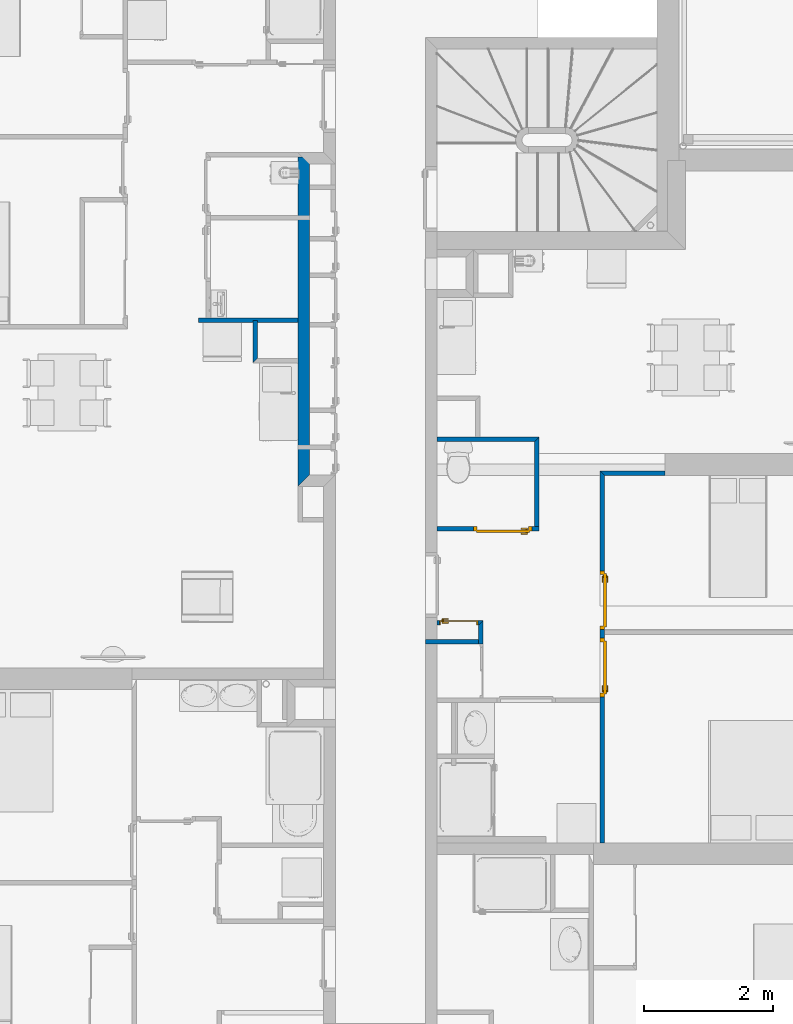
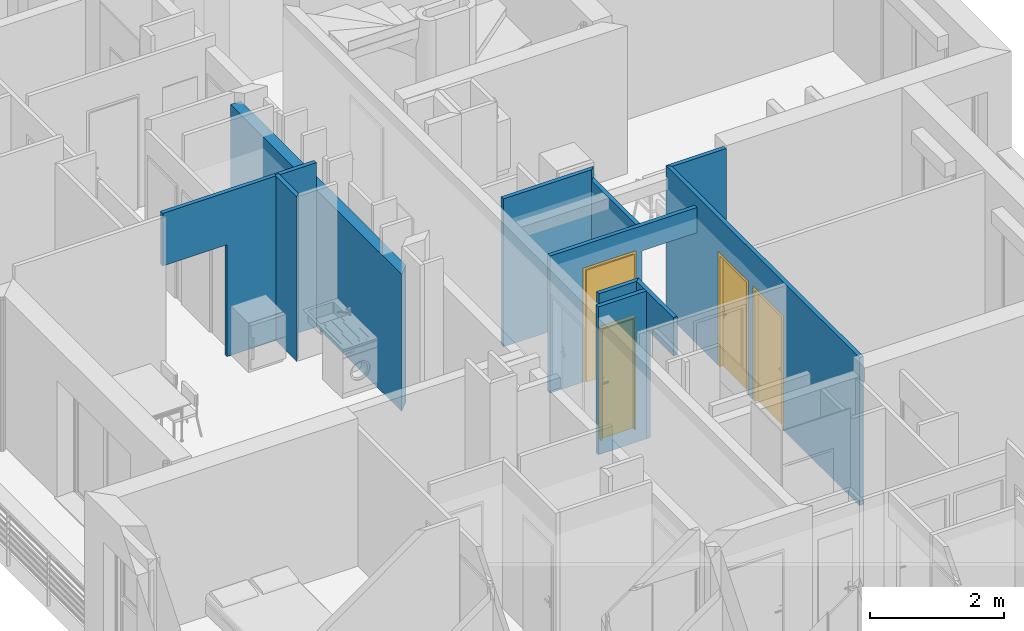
# One storey, part 37 of 171: 11 walls, 4 doors, 7 openings.
"""IFC2X3 building model written with IfcOpenShell, lengths in millimetres."""

from ifc_helpers import new_model, entity, si_unit, converted_unit, derived_unit, money_unit, direction, frame, origin_with_axes, origin_2d_with_axis, place, context, subcontext, project, spatial, polyline, rectangle, outline, extrude, faceted_brep, source, transform, mapped, material, layer, layer_set, layer_usage, type_object, element, fill, save


model = new_model("IFC2X3")

# Units and contexts
model_context = context("Model", 3, precision=0.01, world=origin_with_axes(), true_north=direction((0.0, 1.0)))
body_context = subcontext(model_context, "Body", "Model", "MODEL_VIEW")
ifc_project = project(units=[si_unit("LENGTHUNIT", "METRE", prefix="MILLI"), si_unit("AREAUNIT", "SQUARE_METRE"), si_unit("VOLUMEUNIT", "CUBIC_METRE"), converted_unit("PLANEANGLEUNIT", "DEGREE", entity("IfcPlaneAngleMeasure", 0.0174532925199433), si_unit("PLANEANGLEUNIT", "RADIAN"), dimensions=[0, 0, 0, 0, 0, 0, 0]), money_unit("USD"), converted_unit("TIMEUNIT", "Year", entity("IfcTimeMeasure", 31557600.0), si_unit("TIMEUNIT", "SECOND"), dimensions=[0, 0, 1, 0, 0, 0, 0]), si_unit("MASSUNIT", "GRAM", prefix="KILO"), si_unit("THERMODYNAMICTEMPERATUREUNIT", "DEGREE_CELSIUS"), si_unit("LUMINOUSINTENSITYUNIT", "LUMEN"), si_unit("ENERGYUNIT", "JOULE", prefix="MEGA"), derived_unit("THERMALCONDUCTANCEUNIT", [(si_unit("POWERUNIT", "WATT"), 1), (si_unit("LENGTHUNIT", "METRE"), -1), (si_unit("THERMODYNAMICTEMPERATUREUNIT", "KELVIN"), -1)]), derived_unit("SPECIFICHEATCAPACITYUNIT", [(si_unit("ENERGYUNIT", "JOULE"), 1), (si_unit("MASSUNIT", "GRAM", prefix="KILO"), -1), (si_unit("THERMODYNAMICTEMPERATUREUNIT", "KELVIN"), -1)]), derived_unit("MASSDENSITYUNIT", [(si_unit("MASSUNIT", "GRAM", prefix="KILO"), 1), (si_unit("VOLUMEUNIT", "CUBIC_METRE"), -1)])], contexts=[model_context])

# Site, building, storey
site_placement = place(None, origin_with_axes())
site = spatial("IfcSite", under=ifc_project, at=site_placement, Name="Site", CompositionType="ELEMENT")
building_placement = place(site_placement, origin_with_axes())
building = spatial("IfcBuilding", under=site, at=building_placement, Name="Bâtiment", CompositionType="ELEMENT")
storey_placement = place(building_placement, frame((0.0, 0.0, 3000.0), z_axis=(0.0, 0.0, 1.0), x_axis=(1.0, 0.0, 0.0)))
storey = spatial("IfcBuildingStorey", under=building, at=storey_placement, Name="rdc", CompositionType="ELEMENT", Elevation=3000.0)

# Walls
ifc_material_1 = material(Name="Parpaing 314940890")
ifc_layer_1 = layer(ifc_material_1, 180.0, ventilated="UNKNOWN")
ifc_layer_set_1 = layer_set([ifc_layer_1], Name="Beton  18 0018356637")
ifc_layer_usage_1 = layer_usage(ifc_layer_set_1, "AXIS2", "POSITIVE", 0.0)
wall_type_1 = type_object("IfcWallType", Name="Beton  18 0018356637 180", PredefinedType="NOTDEFINED")
wall_1_placement = place(storey_placement, frame((2223732.400120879, -636007.2981221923, 0.0), z_axis=(0.0, 0.0, 1.0), x_axis=(0.0, -1.0, 0.0)))
element("IfcWallStandardCase", 1, at=wall_1_placement, inside=storey, type_object=wall_type_1, material=ifc_layer_usage_1, Name="Mur-142", context=body_context, shape_type="SweptSolid", body=[
    extrude(outline(polyline([(69.99998401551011, 0.0), (5189.440402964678, 0.0), (5009.440853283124, 179.99999999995), (69.99998897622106, 179.99999999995), (69.99998401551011, 0.0)])), origin_with_axes(), (0.0, 0.0, 1.0), 2500.0),
])
ifc_material_2 = material(Name="Hachure solide 268963992")
ifc_layer_2 = layer(ifc_material_2, 70.0, ventilated="UNKNOWN")
ifc_layer_set_2 = layer_set([ifc_layer_2], Name="Cloison 70 0826278243")
ifc_layer_usage_2 = layer_usage(ifc_layer_set_2, "AXIS2", "NEGATIVE", 70.0)
wall_type_2 = type_object("IfcWallType", Name="Cloison 70 0826278243 70", PredefinedType="NOTDEFINED")
wall_2_placement = place(storey_placement, frame((2228500.650386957, -641025.3255383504, 0.0), z_axis=(0.0, 0.0, 1.0), x_axis=(1.0, 0.0, 0.0)))
element("IfcWallStandardCase", 2, at=wall_2_placement, inside=storey, type_object=wall_type_2, material=ifc_layer_usage_2, Name="Mur-149", context=body_context, shape_type="SweptSolid", body=[
    extrude(outline(polyline([(0.0, 0.0), (934.1625053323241, 0.0), (934.1625053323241, 69.99999999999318), (-70.00000000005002, 69.99999999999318), (0.0, 0.0)])), origin_with_axes(), (0.0, 0.0, 1.0), 2700.0),
])

# Wall, opening, door
ifc_layer_usage_3 = layer_usage(ifc_layer_set_2, "AXIS2", "POSITIVE", -70.0)
wall_3_placement = place(storey_placement, frame((2225712.313074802, -643283.0930621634, 0.0), z_axis=(0.0, 0.0, 1.0), x_axis=(0.9999999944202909, -0.0001056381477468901, 0.0)))
wall_3 = element("IfcWallStandardCase", 3, at=wall_3_placement, inside=storey, type_object=wall_type_2, material=ifc_layer_usage_3, Name="Mur-149", context=body_context, shape_type="SweptSolid", body=[
    extrude(outline(polyline([(180.0126775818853, -69.99999999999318), (830.1173335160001, -69.99999999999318), (900.1173335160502, 0.0), (180.005282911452, 0.0), (180.0126775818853, -69.99999999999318)])), origin_with_axes(), (0.0, 0.0, 1.0), 2700.0),
])
opening_1_placement = place(wall_3_placement, frame((516.4323291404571, 0.0, 0.0), z_axis=(0.0, 0.0, 1.0), x_axis=(1.0, 0.0, 0.0)))
opening_1 = element("IfcOpeningElement", 4, at=opening_1_placement, cuts=wall_3, Name="Por-274", context=body_context, shape_type="SweptSolid", body=[
    extrude(rectangle(XDim=599.9999999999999, YDim=2050.0, at=origin_2d_with_axis()), frame((-1.13686837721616e-10, -69.99999999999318, 1025.0), z_axis=(0.0, 1.0, 0.0), x_axis=(1.0, 0.0, 0.0)), (0.0, 0.0, 1.0), 140.0),
])
door_style = type_object("IfcDoorStyle", Name="Porte_1v", ConstructionType="NOTDEFINED", OperationType="NOTDEFINED", ParameterTakesPrecedence=False, Sizeable=False)
shared_shape_1 = source(origin_with_axes(), body_context, "Body", "Brep", [
    faceted_brep([(300.0, 0.0, 0.0), (290.0, 0.0, 0.0), (290.0, 0.0, 2040.0), (-290.0, 0.0, 2040.0), (-290.0, 0.0, 0.0), (-300.0, 0.0, 0.0), (-300.0, 0.0, 2050.0), (300.0, 0.0, 2050.0), (300.0, -70.0, 0.0), (279.9999999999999, -70.0, 0.0), (279.9999999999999, -15.0, 0.0), (290.0, -15.0, 0.0), (290.0, -15.0, 2040.0), (-290.0, -15.0, 2040.0), (-290.0, -15.0, 0.0), (-279.9999999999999, -15.0, 0.0), (-279.9999999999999, -70.0, 0.0), (-300.0, -70.0, 0.0), (-300.0, -70.0, 2050.0), (300.0, -70.0, 2050.0), (-279.9999999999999, -70.0, 2030.0), (279.9999999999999, -70.0, 2030.0), (279.9999999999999, -15.0, 2030.0), (-279.9999999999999, -15.0, 2030.0)], [[[0, 1, 2, 3, 4, 5, 6, 7]], [[0, 8, 9, 10, 11, 1]], [[1, 11, 12, 2]], [[2, 12, 13, 3]], [[3, 13, 14, 4]], [[5, 4, 14, 15, 16, 17]], [[18, 6, 5, 17]], [[19, 7, 6, 18]], [[8, 0, 7, 19]], [[9, 8, 19, 18, 17, 16, 20, 21]], [[10, 9, 21, 22]], [[11, 10, 22, 23, 15, 14, 13, 12]], [[23, 20, 16, 15]], [[22, 21, 20, 23]]]),
    faceted_brep([(-224.9999999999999, -15.0, 900.0), (-264.9999999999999, -15.0, 900.0), (-264.9999999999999, -15.0, 1100.0), (-224.9999999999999, -15.0, 1100.0), (-224.9999999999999, -25.0, 900.0), (-264.9999999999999, -25.0, 900.0), (-264.9999999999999, -25.0, 1100.0), (-224.9999999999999, -25.0, 1100.0)], [[[0, 1, 2, 3]], [[1, 0, 4, 5]], [[2, 1, 5, 6]], [[3, 2, 6, 7]], [[0, 3, 7, 4]], [[5, 4, 7, 6]]]),
    faceted_brep([(-154.9999999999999, -25.0, 1000.0), (-254.9999999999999, -25.0, 1000.0), (-254.9999999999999, -25.0, 1020.0), (-154.9999999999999, -25.0, 1020.0), (-154.9999999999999, -45.0, 1000.0), (-254.9999999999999, -45.0, 1000.0), (-254.9999999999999, -45.0, 1020.0), (-154.9999999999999, -45.0, 1020.0)], [[[0, 1, 2, 3]], [[1, 0, 4, 5]], [[2, 1, 5, 6]], [[3, 2, 6, 7]], [[0, 3, 7, 4]], [[5, 4, 7, 6]]]),
    faceted_brep([(-224.9999999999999, 15.0, 900.0), (-264.9999999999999, 15.0, 900.0), (-264.9999999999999, 15.0, 1100.0), (-224.9999999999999, 15.0, 1100.0), (-224.9999999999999, 5.000000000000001, 900.0), (-264.9999999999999, 5.000000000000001, 900.0), (-264.9999999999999, 5.000000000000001, 1100.0), (-224.9999999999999, 5.000000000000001, 1100.0)], [[[0, 1, 2, 3]], [[1, 0, 4, 5]], [[2, 1, 5, 6]], [[3, 2, 6, 7]], [[0, 3, 7, 4]], [[5, 4, 7, 6]]]),
    faceted_brep([(-154.9999999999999, 35.0, 1000.0), (-254.9999999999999, 35.0, 1000.0), (-254.9999999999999, 35.0, 1020.0), (-154.9999999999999, 35.0, 1020.0), (-154.9999999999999, 15.0, 1000.0), (-254.9999999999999, 15.0, 1000.0), (-254.9999999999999, 15.0, 1020.0), (-154.9999999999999, 15.0, 1020.0)], [[[0, 1, 2, 3]], [[1, 0, 4, 5]], [[2, 1, 5, 6]], [[3, 2, 6, 7]], [[0, 3, 7, 4]], [[5, 4, 7, 6]]]),
    faceted_brep([(-290.0, 5.000000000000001, 0.0), (290.0, 5.000000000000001, 0.0), (290.0, -15.0, 0.0), (-290.0, -15.0, 0.0), (-290.0, 5.000000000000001, 2040.0), (290.0, 5.000000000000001, 2040.0), (290.0, -15.0, 2040.0), (-290.0, -15.0, 2040.0)], [[[0, 1, 2, 3]], [[0, 4, 5, 1]], [[1, 5, 6, 2]], [[3, 2, 6, 7]], [[4, 0, 3, 7]], [[5, 4, 7, 6]]]),
])
door_1_placement = place(opening_1_placement, frame((-289.9999999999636, 0.0, 0.0), z_axis=(0.0, 0.0, 1.0), x_axis=(1.0, 0.0, 0.0)))
door_1 = element("IfcDoor", 5, at=door_1_placement, inside=storey, type_object=door_style, Name="Por-274", OverallHeight=2040.0, OverallWidth=580.0, context=body_context, shape_type="MappedRepresentation", body=[
    mapped(shared_shape_1, transform((290.0000000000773, 0.0, 0.0))),
])
fill(opening_1, door_1)

# Wall, openings, doors
ifc_layer_usage_4 = layer_usage(ifc_layer_set_2, "AXIS2", "NEGATIVE", 70.0)
wall_4_placement = place(storey_placement, frame((2228500.650386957, -646738.4413044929, 0.0), z_axis=(0.0, 0.0, 1.0), x_axis=(0.0, 1.0, 0.0)))
wall_4 = element("IfcWallStandardCase", 6, at=wall_4_placement, inside=storey, type_object=wall_type_2, material=ifc_layer_usage_4, Name="Mur-149", context=body_context, shape_type="SweptSolid", body=[
    extrude(outline(polyline([(8.172236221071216e-07, 0.0), (5713.115766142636, 0.0), (5783.115766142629, 70.00000000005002), (8.456169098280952e-07, 70.00000000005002), (8.172236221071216e-07, 0.0)])), origin_with_axes(), (0.0, 0.0, 1.0), 2700.0),
])
opening_2_placement = place(wall_4_placement, frame((2726.280408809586, -1.13686837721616e-10, 0.0), z_axis=(0.0, 0.0, 1.0), x_axis=(1.0, 0.0, 0.0)))
opening_2 = element("IfcOpeningElement", 7, at=opening_2_placement, cuts=wall_4, Name="Por-275", context=body_context, shape_type="SweptSolid", body=[
    extrude(rectangle(XDim=910.0000000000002, YDim=2080.0, at=origin_2d_with_axis()), frame((0.0, 70.00000000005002, 1040.0), z_axis=(0.0, 1.0, 0.0), x_axis=(1.0, 0.0, 0.0)), (0.0, 0.0, -1.0), 140.0),
])
opening_3_placement = place(wall_4_placement, frame((3770.831342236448, -1.13686837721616e-10, 0.0), z_axis=(0.0, 0.0, 1.0), x_axis=(1.0, 0.0, 0.0)))
opening_3 = element("IfcOpeningElement", 8, at=opening_3_placement, cuts=wall_4, Name="Por-276", context=body_context, shape_type="SweptSolid", body=[
    extrude(rectangle(XDim=910.0000000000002, YDim=2080.0, at=origin_2d_with_axis()), frame((0.0, 70.00000000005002, 1040.0), z_axis=(0.0, -1.0, 0.0), x_axis=(-1.0, 0.0, 0.0)), (0.0, 0.0, 1.0), 140.0),
])
shared_shape_2 = source(origin_with_axes(), body_context, "Body", "Brep", [
    faceted_brep([(455.0, 0.0, 0.0), (415.0000000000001, 0.0, 0.0), (415.0000000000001, 0.0, 2040.0), (-415.0000000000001, 0.0, 2040.0), (-415.0000000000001, 0.0, 0.0), (-455.0, 0.0, 0.0), (-455.0, 0.0, 2080.0), (455.0, 0.0, 2080.0), (455.0, -70.0, 0.0), (400.0, -70.0, 0.0), (400.0, -15.0, 0.0), (415.0000000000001, -15.0, 0.0), (415.0000000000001, -15.0, 2040.0), (-415.0000000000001, -15.0, 2040.0), (-415.0000000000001, -15.0, 0.0), (-400.0, -15.0, 0.0), (-400.0, -70.0, 0.0), (-455.0, -70.0, 0.0), (-455.0, -70.0, 2080.0), (455.0, -70.0, 2080.0), (-400.0, -70.0, 2025.0), (400.0, -70.0, 2025.0), (400.0, -15.0, 2025.0), (-400.0, -15.0, 2025.0)], [[[0, 1, 2, 3, 4, 5, 6, 7]], [[0, 8, 9, 10, 11, 1]], [[1, 11, 12, 2]], [[2, 12, 13, 3]], [[3, 13, 14, 4]], [[5, 4, 14, 15, 16, 17]], [[18, 6, 5, 17]], [[19, 7, 6, 18]], [[8, 0, 7, 19]], [[9, 8, 19, 18, 17, 16, 20, 21]], [[10, 9, 21, 22]], [[11, 10, 22, 23, 15, 14, 13, 12]], [[23, 20, 16, 15]], [[22, 21, 20, 23]]]),
    faceted_brep([(-350.0000000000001, -15.0, 900.0), (-390.0, -15.0, 900.0), (-390.0, -15.0, 1100.0), (-350.0000000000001, -15.0, 1100.0), (-350.0000000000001, -25.0, 900.0), (-390.0, -25.0, 900.0), (-390.0, -25.0, 1100.0), (-350.0000000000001, -25.0, 1100.0)], [[[0, 1, 2, 3]], [[1, 0, 4, 5]], [[2, 1, 5, 6]], [[3, 2, 6, 7]], [[0, 3, 7, 4]], [[5, 4, 7, 6]]]),
    faceted_brep([(-280.0, -25.0, 1000.0), (-380.0, -25.0, 1000.0), (-380.0, -25.0, 1020.0), (-280.0, -25.0, 1020.0), (-280.0, -45.0, 1000.0), (-380.0, -45.0, 1000.0), (-380.0, -45.0, 1020.0), (-280.0, -45.0, 1020.0)], [[[0, 1, 2, 3]], [[1, 0, 4, 5]], [[2, 1, 5, 6]], [[3, 2, 6, 7]], [[0, 3, 7, 4]], [[5, 4, 7, 6]]]),
    faceted_brep([(-350.0000000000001, 35.0, 900.0), (-390.0, 35.0, 900.0), (-390.0, 35.0, 1100.0), (-350.0000000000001, 35.0, 1100.0), (-350.0000000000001, 25.0, 900.0), (-390.0, 25.0, 900.0), (-390.0, 25.0, 1100.0), (-350.0000000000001, 25.0, 1100.0)], [[[0, 1, 2, 3]], [[1, 0, 4, 5]], [[2, 1, 5, 6]], [[3, 2, 6, 7]], [[0, 3, 7, 4]], [[5, 4, 7, 6]]]),
    faceted_brep([(-280.0, 55.00000000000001, 1000.0), (-380.0, 55.00000000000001, 1000.0), (-380.0, 55.00000000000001, 1020.0), (-280.0, 55.00000000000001, 1020.0), (-280.0, 35.0, 1000.0), (-380.0, 35.0, 1000.0), (-380.0, 35.0, 1020.0), (-280.0, 35.0, 1020.0)], [[[0, 1, 2, 3]], [[1, 0, 4, 5]], [[2, 1, 5, 6]], [[3, 2, 6, 7]], [[0, 3, 7, 4]], [[5, 4, 7, 6]]]),
    faceted_brep([(-415.0000000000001, 25.0, 0.0), (415.0000000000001, 25.0, 0.0), (415.0000000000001, -15.0, 0.0), (-415.0000000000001, -15.0, 0.0), (-415.0000000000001, 25.0, 2040.0), (415.0000000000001, 25.0, 2040.0), (415.0000000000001, -15.0, 2040.0), (-415.0000000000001, -15.0, 2040.0)], [[[0, 1, 2, 3]], [[0, 4, 5, 1]], [[1, 5, 6, 2]], [[3, 2, 6, 7]], [[4, 0, 3, 7]], [[5, 4, 7, 6]]]),
])
door_2_placement = place(opening_3_placement, frame((415.0000000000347, -1.13686837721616e-10, 0.0), z_axis=(0.0, 0.0, 1.0), x_axis=(-1.0, 0.0, 0.0)))
door_2 = element("IfcDoor", 9, at=door_2_placement, inside=storey, type_object=door_style, Name="Por-276", OverallHeight=2040.0, OverallWidth=830.0, context=body_context, shape_type="MappedRepresentation", body=[
    mapped(shared_shape_2, transform((415.0000000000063, 0.0, 0.0))),
])
fill(opening_3, door_2)
shared_shape_3 = source(origin_with_axes(), body_context, "Body", "Brep", [
    faceted_brep([(-454.9999999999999, 0.0, 0.0), (-454.9999999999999, 0.0, 2080.0), (454.9999999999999, 0.0, 2080.0), (454.9999999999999, 0.0, 0.0), (414.9999999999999, 0.0, 0.0), (414.9999999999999, 0.0, 2040.0), (-414.9999999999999, 0.0, 2040.0), (-414.9999999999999, 0.0, 0.0), (-454.9999999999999, -69.99999999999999, 0.0), (-454.9999999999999, -69.99999999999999, 2080.0), (454.9999999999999, -69.99999999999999, 2080.0), (454.9999999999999, -69.99999999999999, 0.0), (399.9999999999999, -69.99999999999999, 0.0), (399.9999999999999, -15.0, 0.0), (414.9999999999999, -15.0, 0.0), (414.9999999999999, -15.0, 2040.0), (-414.9999999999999, -14.99999999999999, 2040.0), (-414.9999999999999, -14.99999999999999, 0.0), (-399.9999999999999, -14.99999999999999, 0.0), (-399.9999999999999, -69.99999999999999, 0.0), (-399.9999999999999, -69.99999999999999, 2025.0), (399.9999999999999, -69.99999999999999, 2025.0), (399.9999999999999, -15.0, 2025.0), (-399.9999999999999, -14.99999999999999, 2025.0)], [[[0, 1, 2, 3, 4, 5, 6, 7]], [[8, 9, 1, 0]], [[9, 10, 2, 1]], [[10, 11, 3, 2]], [[3, 11, 12, 13, 14, 4]], [[5, 4, 14, 15]], [[6, 5, 15, 16]], [[7, 6, 16, 17]], [[0, 7, 17, 18, 19, 8]], [[19, 20, 21, 12, 11, 10, 9, 8]], [[22, 13, 12, 21]], [[17, 16, 15, 14, 13, 22, 23, 18]], [[18, 23, 20, 19]], [[23, 22, 21, 20]]]),
    faceted_brep([(350.0, -15.0, 900.0), (350.0, -15.0, 1100.0), (389.9999999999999, -15.0, 1100.0), (389.9999999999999, -15.0, 900.0), (350.0, -25.0, 900.0), (350.0, -25.0, 1100.0), (389.9999999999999, -25.0, 1100.0), (389.9999999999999, -25.0, 900.0)], [[[0, 1, 2, 3]], [[0, 4, 5, 1]], [[1, 5, 6, 2]], [[2, 6, 7, 3]], [[3, 7, 4, 0]], [[7, 6, 5, 4]]]),
    faceted_brep([(279.9999999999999, -25.0, 1000.0), (279.9999999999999, -25.0, 1020.0), (379.9999999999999, -25.0, 1020.0), (379.9999999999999, -25.0, 1000.0), (279.9999999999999, -45.0, 1000.0), (279.9999999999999, -45.0, 1020.0), (379.9999999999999, -45.0, 1020.0), (379.9999999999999, -45.0, 1000.0)], [[[0, 1, 2, 3]], [[0, 4, 5, 1]], [[1, 5, 6, 2]], [[2, 6, 7, 3]], [[3, 7, 4, 0]], [[7, 6, 5, 4]]]),
    faceted_brep([(350.0, 34.99999999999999, 900.0), (350.0, 34.99999999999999, 1100.0), (389.9999999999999, 34.99999999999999, 1100.0), (389.9999999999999, 34.99999999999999, 900.0), (350.0, 24.99999999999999, 900.0), (350.0, 24.99999999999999, 1100.0), (389.9999999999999, 24.99999999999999, 1100.0), (389.9999999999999, 24.99999999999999, 900.0)], [[[0, 1, 2, 3]], [[0, 4, 5, 1]], [[1, 5, 6, 2]], [[2, 6, 7, 3]], [[3, 7, 4, 0]], [[7, 6, 5, 4]]]),
    faceted_brep([(279.9999999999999, 54.99999999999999, 1000.0), (279.9999999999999, 54.99999999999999, 1020.0), (379.9999999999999, 54.99999999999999, 1020.0), (379.9999999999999, 54.99999999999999, 1000.0), (279.9999999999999, 34.99999999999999, 1000.0), (279.9999999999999, 34.99999999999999, 1020.0), (379.9999999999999, 34.99999999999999, 1020.0), (379.9999999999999, 34.99999999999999, 1000.0)], [[[0, 1, 2, 3]], [[0, 4, 5, 1]], [[1, 5, 6, 2]], [[2, 6, 7, 3]], [[3, 7, 4, 0]], [[7, 6, 5, 4]]]),
    faceted_brep([(414.9999999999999, 24.99999999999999, 0.0), (414.9999999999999, -15.0, 0.0), (-414.9999999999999, -14.99999999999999, 0.0), (-414.9999999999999, 25.0, 0.0), (414.9999999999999, 24.99999999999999, 2040.0), (414.9999999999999, -15.0, 2040.0), (-414.9999999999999, -14.99999999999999, 2040.0), (-414.9999999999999, 25.0, 2040.0)], [[[0, 1, 2, 3]], [[4, 5, 1, 0]], [[1, 5, 6, 2]], [[3, 2, 6, 7]], [[0, 3, 7, 4]], [[7, 6, 5, 4]]]),
])
door_3_placement = place(opening_2_placement, frame((415.0000000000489, -1.13686837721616e-10, 0.0), z_axis=(0.0, 0.0, 1.0), x_axis=(-1.0, 0.0, 0.0)))
door_3 = element("IfcDoor", 10, at=door_3_placement, inside=storey, type_object=door_style, Name="Por-275", OverallHeight=2040.0, OverallWidth=830.0, context=body_context, shape_type="MappedRepresentation", body=[
    mapped(shared_shape_3, transform((415.0000000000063, 0.0, 0.0))),
])
fill(opening_2, door_3)

# Wall
ifc_layer_usage_5 = layer_usage(ifc_layer_set_2, "AXIS2", "NEGATIVE", 70.0)
wall_5_placement = place(storey_placement, frame((2223029.148647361, -638616.7973015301, 0.0), z_axis=(0.0, 0.0, 1.0), x_axis=(0.0, -1.0, 0.0)))
element("IfcWallStandardCase", 11, at=wall_5_placement, inside=storey, type_object=wall_type_2, material=ifc_layer_usage_5, Name="Mur-149", context=body_context, shape_type="SweptSolid", body=[
    extrude(outline(polyline([(0.0, 0.0), (663.555495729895, 0.0), (593.5554957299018, 70.00000000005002), (0.0, 70.00000000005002), (0.0, 0.0)])), origin_with_axes(), (0.0, 0.0, 1.0), 3000.0),
])

# Wall, opening
ifc_layer_usage_6 = layer_usage(ifc_layer_set_2, "AXIS2", "POSITIVE", -70.0)
wall_6_placement = place(storey_placement, frame((2223732.399938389, -638652.0258613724, 0.0), z_axis=(0.0, 0.0, 1.0), x_axis=(-0.9999999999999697, 2.461209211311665e-07, 0.0)))
wall_6 = element("IfcWallStandardCase", 12, at=wall_6_placement, inside=storey, type_object=wall_type_2, material=ifc_layer_usage_6, Name="Mur-149", context=body_context, shape_type="SweptSolid", body=[
    extrude(outline(polyline([(-0.0001652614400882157, -69.99999999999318), (2651.519653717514, -70.00000000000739), (2651.519654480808, 0.0), (-0.0001824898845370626, 0.0), (-0.0001652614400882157, -69.99999999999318)])), origin_with_axes(), (0.0, 0.0, 1.0), 3000.0),
])
opening_4_placement = place(wall_6_placement, frame((2097.555894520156, 0.0, 0.0), z_axis=(0.0, 0.0, 1.0), x_axis=(1.0, 0.0, 0.0)))
element("IfcOpeningElement", 13, at=opening_4_placement, cuts=wall_6, Name="Por-276", context=body_context, shape_type="SweptSolid", body=[
    extrude(rectangle(XDim=1107.927519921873, YDim=2040.0, at=origin_2d_with_axis()), frame((0.0, 0.0, 1020.0), z_axis=(0.0, -1.0, 0.0), x_axis=(1.0, 0.0, 0.0)), (0.0, 0.0, -1.0), 70.0),
    extrude(rectangle(XDim=1107.927519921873, YDim=2040.0, at=origin_2d_with_axis()), frame((0.0, 0.0, 1020.0), z_axis=(0.0, 1.0, 0.0), x_axis=(1.0, 0.0, 0.0)), (0.0, 0.0, -1.0), 70.0),
])

# Wall, openings, door
ifc_layer_usage_7 = layer_usage(ifc_layer_set_2, "AXIS2", "NEGATIVE", 70.0)
wall_7_placement = place(storey_placement, frame((2225712.318356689, -641889.605145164, 0.0), z_axis=(0.0, 0.0, 1.0), x_axis=(1.0, 0.0, 0.0)))
wall_7 = element("IfcWallStandardCase", 14, at=wall_7_placement, inside=storey, type_object=wall_type_2, material=ifc_layer_usage_7, Name="Mur-149", context=body_context, shape_type="SweptSolid", body=[
    extrude(outline(polyline([(180.0000000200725, 0.0), (2718.332030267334, 0.0), (2718.332030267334, 69.99999999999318), (180.0000000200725, 69.99999999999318), (180.0000000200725, 0.0)])), origin_with_axes(), (0.0, 0.0, 1.0), 2500.0),
])
opening_5_placement = place(wall_7_placement, frame((1206.62019077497, 0.0, 0.0), z_axis=(0.0, 0.0, 1.0), x_axis=(1.0, 0.0, 0.0)))
opening_5 = element("IfcOpeningElement", 15, at=opening_5_placement, cuts=wall_7, Name="Por-278", context=body_context, shape_type="SweptSolid", body=[
    extrude(rectangle(XDim=910.0, YDim=2080.0, at=origin_2d_with_axis()), frame((0.0, 69.99999999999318, 1040.0), z_axis=(0.0, -1.0, 0.0), x_axis=(-1.0, 0.0, 0.0)), (0.0, 0.0, 1.0), 140.0),
])
opening_6_placement = place(wall_7_placement, frame((2244.166015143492, 0.0, 0.0), z_axis=(0.0, 0.0, 1.0), x_axis=(1.0, 0.0, 0.0)))
element("IfcOpeningElement", 16, at=opening_6_placement, cuts=wall_7, Name="Por-278", context=body_context, shape_type="SweptSolid", body=[
    extrude(rectangle(XDim=948.332030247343, YDim=2040.0, at=origin_2d_with_axis()), frame((0.0, 69.99999999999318, 1020.0), z_axis=(0.0, -1.0, 0.0), x_axis=(1.0, 0.0, 0.0)), (0.0, 0.0, -1.0), 70.0),
    extrude(rectangle(XDim=948.332030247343, YDim=2040.0, at=origin_2d_with_axis()), frame((0.0, 69.99999999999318, 1020.0), z_axis=(0.0, 1.0, 0.0), x_axis=(1.0, 0.0, 0.0)), (0.0, 0.0, -1.0), 70.0),
])
shared_shape_4 = source(origin_with_axes(), body_context, "Body", "Brep", [
    faceted_brep([(454.9999999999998, 0.0, 0.0), (414.9999999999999, 0.0, 0.0), (414.9999999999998, 0.0, 2040.0), (-414.9999999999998, 0.0, 2040.0), (-414.9999999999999, 0.0, 0.0), (-454.9999999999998, 0.0, 0.0), (-454.9999999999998, 0.0, 2080.0), (454.9999999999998, 0.0, 2080.0), (454.9999999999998, -69.99999999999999, 0.0), (399.9999999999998, -69.99999999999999, 0.0), (399.9999999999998, -15.0, 0.0), (414.9999999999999, -15.0, 0.0), (414.9999999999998, -15.0, 2040.0), (-414.9999999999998, -15.0, 2040.0), (-414.9999999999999, -15.0, 0.0), (-399.9999999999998, -15.0, 0.0), (-399.9999999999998, -69.99999999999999, 0.0), (-454.9999999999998, -69.99999999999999, 0.0), (-454.9999999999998, -69.99999999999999, 2080.0), (454.9999999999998, -69.99999999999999, 2080.0), (-399.9999999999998, -69.99999999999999, 2025.0), (399.9999999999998, -69.99999999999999, 2025.0), (399.9999999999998, -15.0, 2025.0), (-399.9999999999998, -15.0, 2025.0)], [[[0, 1, 2, 3, 4, 5, 6, 7]], [[0, 8, 9, 10, 11, 1]], [[1, 11, 12, 2]], [[2, 12, 13, 3]], [[3, 13, 14, 4]], [[5, 4, 14, 15, 16, 17]], [[18, 6, 5, 17]], [[19, 7, 6, 18]], [[8, 0, 7, 19]], [[9, 8, 19, 18, 17, 16, 20, 21]], [[10, 9, 21, 22]], [[11, 10, 22, 23, 15, 14, 13, 12]], [[23, 20, 16, 15]], [[22, 21, 20, 23]]]),
    faceted_brep([(-349.9999999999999, -15.0, 900.0), (-389.9999999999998, -15.0, 900.0), (-389.9999999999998, -15.0, 1100.0), (-349.9999999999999, -15.0, 1100.0), (-349.9999999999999, -24.99999999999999, 900.0), (-389.9999999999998, -24.99999999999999, 900.0), (-389.9999999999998, -24.99999999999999, 1100.0), (-349.9999999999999, -24.99999999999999, 1100.0)], [[[0, 1, 2, 3]], [[1, 0, 4, 5]], [[2, 1, 5, 6]], [[3, 2, 6, 7]], [[0, 3, 7, 4]], [[5, 4, 7, 6]]]),
    faceted_brep([(-279.9999999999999, -24.99999999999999, 1000.0), (-379.9999999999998, -24.99999999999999, 1000.0), (-379.9999999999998, -24.99999999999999, 1020.0), (-279.9999999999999, -24.99999999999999, 1020.0), (-279.9999999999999, -44.99999999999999, 1000.0), (-379.9999999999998, -44.99999999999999, 1000.0), (-379.9999999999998, -44.99999999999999, 1020.0), (-279.9999999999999, -44.99999999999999, 1020.0)], [[[0, 1, 2, 3]], [[1, 0, 4, 5]], [[2, 1, 5, 6]], [[3, 2, 6, 7]], [[0, 3, 7, 4]], [[5, 4, 7, 6]]]),
    faceted_brep([(-349.9999999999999, 34.99999999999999, 900.0), (-389.9999999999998, 34.99999999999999, 900.0), (-389.9999999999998, 34.99999999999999, 1100.0), (-349.9999999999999, 34.99999999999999, 1100.0), (-349.9999999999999, 24.99999999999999, 900.0), (-389.9999999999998, 24.99999999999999, 900.0), (-389.9999999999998, 24.99999999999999, 1100.0), (-349.9999999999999, 24.99999999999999, 1100.0)], [[[0, 1, 2, 3]], [[1, 0, 4, 5]], [[2, 1, 5, 6]], [[3, 2, 6, 7]], [[0, 3, 7, 4]], [[5, 4, 7, 6]]]),
    faceted_brep([(-279.9999999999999, 54.99999999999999, 1000.0), (-379.9999999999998, 54.99999999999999, 1000.0), (-379.9999999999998, 54.99999999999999, 1020.0), (-279.9999999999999, 54.99999999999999, 1020.0), (-279.9999999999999, 34.99999999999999, 1000.0), (-379.9999999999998, 34.99999999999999, 1000.0), (-379.9999999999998, 34.99999999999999, 1020.0), (-279.9999999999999, 34.99999999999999, 1020.0)], [[[0, 1, 2, 3]], [[1, 0, 4, 5]], [[2, 1, 5, 6]], [[3, 2, 6, 7]], [[0, 3, 7, 4]], [[5, 4, 7, 6]]]),
    faceted_brep([(-414.9999999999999, 24.99999999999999, 0.0), (414.9999999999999, 24.99999999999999, 0.0), (414.9999999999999, -15.0, 0.0), (-414.9999999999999, -15.0, 0.0), (-414.9999999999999, 24.99999999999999, 2040.0), (414.9999999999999, 24.99999999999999, 2040.0), (414.9999999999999, -15.0, 2040.0), (-414.9999999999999, -15.0, 2040.0)], [[[0, 1, 2, 3]], [[0, 4, 5, 1]], [[1, 5, 6, 2]], [[3, 2, 6, 7]], [[4, 0, 3, 7]], [[5, 4, 7, 6]]]),
])
door_4_placement = place(opening_5_placement, frame((414.9999999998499, 0.0, 0.0), z_axis=(0.0, 0.0, 1.0), x_axis=(-1.0, 0.0, 0.0)))
door_4 = element("IfcDoor", 17, at=door_4_placement, inside=storey, type_object=door_style, Name="Por-278", OverallHeight=2040.0, OverallWidth=830.0, context=body_context, shape_type="MappedRepresentation", body=[
    mapped(shared_shape_4, transform((414.9999999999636, 0.0, 0.0))),
])
fill(opening_5, door_4)

# Walls
ifc_layer_usage_8 = layer_usage(ifc_layer_set_2, "AXIS2", "POSITIVE", -70.0)
wall_8_placement = place(storey_placement, frame((2225712.282439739, -643573.0930605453, 0.0), z_axis=(0.0, 0.0, 1.0), x_axis=(0.9999999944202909, -0.0001056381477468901, 0.0)))
element("IfcWallStandardCase", 18, at=wall_8_placement, inside=storey, type_object=wall_type_2, material=ifc_layer_usage_8, Name="Mur-149", context=body_context, shape_type="SweptSolid", body=[
    extrude(outline(polyline([(1.13686837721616e-10, -70.00000000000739), (830.1173335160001, -69.99999999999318), (830.1173335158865, 0.0), (0.0, 0.0), (1.13686837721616e-10, -70.00000000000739)])), origin_with_axes(), (0.0, 0.0, 1.0), 2700.0),
])
ifc_layer_usage_9 = layer_usage(ifc_layer_set_2, "AXIS2", "NEGATIVE", 70.0)
wall_9_placement = place(storey_placement, frame((2227412.318356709, -640498.9119494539, 0.0), z_axis=(0.0, 0.0, 1.0), x_axis=(0.0, -1.0, 0.0)))
element("IfcWallStandardCase", 19, at=wall_9_placement, inside=storey, type_object=wall_type_2, material=ifc_layer_usage_9, Name="Mur-149", context=body_context, shape_type="SweptSolid", body=[
    extrude(outline(polyline([(0.0, 0.0), (1320.69319571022, 0.0), (1320.69319571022, 70.00000000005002), (-69.99999999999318, 70.00000000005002), (0.0, 0.0)])), origin_with_axes(), (0.0, 0.0, 1.0), 2500.0),
])

# Wall, opening
ifc_layer_usage_10 = layer_usage(ifc_layer_set_2, "AXIS2", "POSITIVE", -70.0)
wall_10_placement = place(storey_placement, frame((2226612.430403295, -643283.1881488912, 0.0), z_axis=(0.0, 0.0, 1.0), x_axis=(-0.0001056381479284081, -0.9999999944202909, 0.0)))
wall_10 = element("IfcWallStandardCase", 20, at=wall_10_placement, inside=storey, type_object=wall_type_2, material=ifc_layer_usage_10, Name="Mur-149", context=body_context, shape_type="SweptSolid", body=[
    extrude(outline(polyline([(69.99999999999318, -69.99999999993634), (1163.342692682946, -69.99999999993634), (1163.342692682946, 0.0), (0.0, 0.0), (69.99999999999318, -69.99999999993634)])), origin_with_axes(), (0.0, 0.0, 1.0), 2700.0),
])
opening_7_placement = place(wall_10_placement, frame((781.671346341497, 1.13686837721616e-10, 0.0), z_axis=(0.0, 0.0, 1.0), x_axis=(1.0, 0.0, 0.0)))
element("IfcOpeningElement", 21, at=opening_7_placement, cuts=wall_10, Name="Por-321", context=body_context, shape_type="SweptSolid", body=[
    extrude(rectangle(XDim=843.3426926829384, YDim=2000.0, at=origin_2d_with_axis()), frame((0.0, 0.0, 1000.0), z_axis=(0.0, -1.0, 0.0), x_axis=(1.0, 0.0, 0.0)), (0.0, 0.0, -1.0), 70.0),
    extrude(rectangle(XDim=843.3426926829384, YDim=2000.0, at=origin_2d_with_axis()), frame((0.0, 0.0, 1000.0), z_axis=(0.0, 1.0, 0.0), x_axis=(1.0, 0.0, 0.0)), (0.0, 0.0, -1.0), 70.0),
])

# Wall
ifc_material_3 = material(Name="Hachure solide 269229667")
ifc_layer_3 = layer(ifc_material_3, 70.0, ventilated="UNKNOWN")
ifc_layer_set_3 = layer_set([ifc_layer_3], Name="Cloison 70 0836576958")
ifc_layer_usage_11 = layer_usage(ifc_layer_set_3, "AXIS2", "NEGATIVE", 0.0)
wall_type_3 = type_object("IfcWallType", Name="Cloison 70 0836576958 70", PredefinedType="NOTDEFINED")
wall_11_placement = place(storey_placement, frame((2227412.318356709, -640498.9119494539, 0.0), z_axis=(0.0, 0.0, 1.0), x_axis=(-1.0, 0.0, 0.0)))
element("IfcWallStandardCase", 22, at=wall_11_placement, inside=storey, type_object=wall_type_3, material=ifc_layer_usage_11, Name="Mur-148", context=body_context, shape_type="SweptSolid", body=[
    extrude(outline(polyline([(-70.00000000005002, -69.99999999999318), (1519.999999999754, -69.99999999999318), (1519.999999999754, 0.0), (0.0, 0.0), (-70.00000000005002, -69.99999999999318)])), origin_with_axes(), (0.0, 0.0, 1.0), 2700.0),
])

save(model, "model.ifc")
